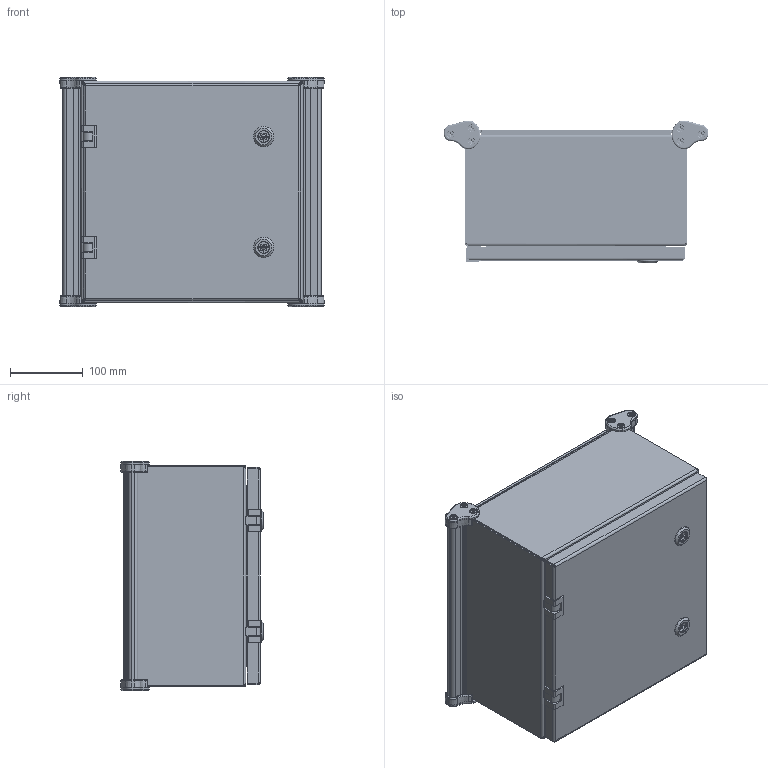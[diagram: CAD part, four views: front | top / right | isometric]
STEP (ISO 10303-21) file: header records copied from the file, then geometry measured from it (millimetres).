
FILE_DESCRIPTION(/* description */ ('Unknown'),/* implementation_level */ '2;1');
FILE_NAME(/* name */ 'ACE12126LG',/* time_stamp */ '2023-10-19T11:41:36-04:00',/* author */ ('Unknown'),/* organization */ ('Unknown'),/* preprocessor_version */ 'ST-DEVELOPER v18.104',/* originating_system */ 'Solid Edge',/* authorisation */ 'Unknown');
FILE_SCHEMA (('AUTOMOTIVE_DESIGN {1 0 10303 214 3 1 1}'));
Length unit declared in the file: millimetre
Products named in the file (43): ACE12126LG; COM71501-1; STD26130; BUL10020; NTS17050; COM71505-1; PNT21002; NTS16535; GSK88487_oa_0; GSK88487_oa_1; GSK88487_oa_2; GSK88487_oa_3; COM71504-1; STD26260; AKT95000; HNG14569; PIN17639; WAM30017; SCC19015; CAP88489; CAP88490; COM71506-1; SCS88495; WAM87960; KIT90256; LAB30005; NTS165305; BUL88556; COM71503-1; STD26092; COM70219_oa_4; LOK10000; LOK10000_CAM; LOK10000_SCREW; LOK10000_NUT; KIT90780; scs18968; QLB20179
Assembly tree (98 placements, depth 3):
  ACE12126LG
    COM71501-1
    STD26130  x8
    BUL10020
    NTS17050  x12
    COM71505-1
      COM71505-1
      PNT21002
    NTS16535  x4
    GSK88487_oa_0
    GSK88487_oa_1
    GSK88487_oa_2
    GSK88487_oa_3
    COM71504-1
      COM71504-1
      STD26260  x8
    AKT95000  x2
      HNG14569
      PIN17639
      WAM30017
      SCC19015
    CAP88489  x2
    CAP88490  x2
    COM71506-1  x2
      COM71506-1
      PNT21002
    SCS88495  x12
    WAM87960  x4
    KIT90256
      LAB30005
      NTS165305
      NTS16535
    BUL88556
    COM71503-1
      COM71503-1
      STD26130  x2
      STD26092  x4
      COM70219_oa_4
      PNT21002
    LOK10000  x2
      LOK10000
      LOK10000_CAM
      LOK10000_SCREW
      LOK10000_NUT
    KIT90780
      scs18968
    PNT21002
    QLB20179
Bounding box: 363.02 x 196.04 x 314.83 mm (x, y, z)
Volume: 1432221.8 mm3; surface area: 1283560.7 mm2
Topology: 91 solids, 92 shells, 2498 faces, 6459 edges, 4158 vertices
Faces by surface type: plane 1155, cylinder 845, cone 202, bspline 182, torus 98, sphere 16
Full cylindrical faces by diameter (mm): 3.967 x12, 4.039 x4, 4.064 x4, 4.699 x1, 4.826 x16, 4.976 x5, 5.004 x2, 5.2 x12, 5.74 x2, 5.893 x4, 5.944 x12, 5.994 x6, 6.096 x4, 6.35 x17, 6.502 x8, 6.985 x2, 8.382 x4, 9.525 x4, 9.779 x1, 10.319 x4, 10.5 x12, 11.176 x4, 13.335 x2, 15.875 x4, 19.939 x4, 27.94 x2, 50.8 x1
Entity records: 39731 total; most frequent: CARTESIAN_POINT 11096, ORIENTED_EDGE 5692, DIRECTION 5310, EDGE_CURVE 2846, VERTEX_POINT 1852, AXIS2_PLACEMENT_3D 1833, LINE 1644, VECTOR 1644
